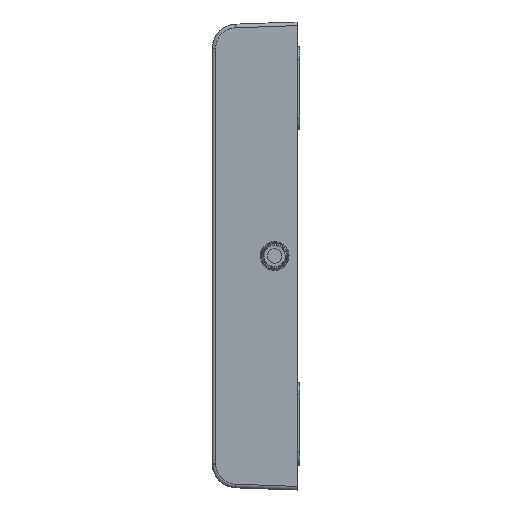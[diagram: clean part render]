
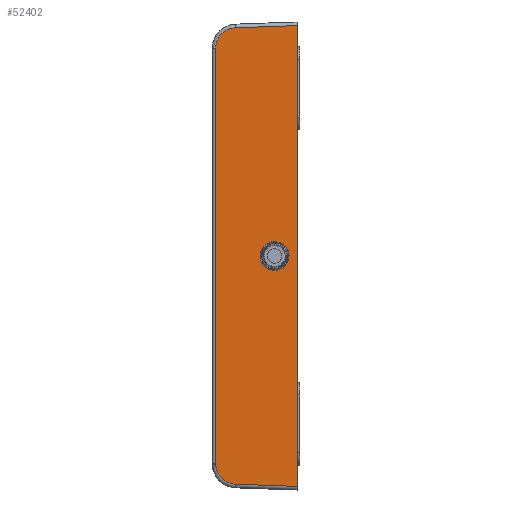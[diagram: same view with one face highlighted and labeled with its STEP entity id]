
A CAD part, left-side view. The second image highlights one B-rep face of the part: STEP entity #52402.
In plain terms, the highlighted planar face has unit normal (-0.999, 0.035, 0).
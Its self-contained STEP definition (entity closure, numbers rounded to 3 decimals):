
#740 = CARTESIAN_POINT ( 'NONE',  ( -128.366, -10.945, -97.289 ) ) ;
#755 = PLANE ( 'NONE',  #55244 ) ;
#777 = DIRECTION ( 'NONE',  ( -0.999, 0.035, 0. ) ) ;
#779 = DIRECTION ( 'NONE',  ( -0.035, -0.999, 0. ) ) ;
#3758 = FACE_OUTER_BOUND ( 'NONE', #15094, .T. ) ;
#10275 = LINE ( 'NONE', #12285, #10278 ) ;
#10278 = VECTOR ( 'NONE', #12287, 1000. ) ;
#10392 = LINE ( 'NONE', #41068, #10404 ) ;
#10393 = LINE ( 'NONE', #41074, #10406 ) ;
#10404 = VECTOR ( 'NONE', #41069, 1000. ) ;
#10405 = VECTOR ( 'NONE', #41111, 1000. ) ;
#10406 = VECTOR ( 'NONE', #41075, 1000. ) ;
#10408 = LINE ( 'NONE', #41110, #10405 ) ;
#12285 = CARTESIAN_POINT ( 'NONE',  ( -128.366, -10.945, -97.289 ) ) ;
#12287 = DIRECTION ( 'NONE',  ( 0., 0., 1. ) ) ;
#12461 = CARTESIAN_POINT ( 'NONE',  ( -127.179, 23.06, -86.394 ) ) ;
#12477 = CARTESIAN_POINT ( 'NONE',  ( -127.179, 23.06, -86.493 ) ) ;
#12479 = CARTESIAN_POINT ( 'NONE',  ( -127.179, 23.058, -86.592 ) ) ;
#12481 = CARTESIAN_POINT ( 'NONE',  ( -127.179, 23.055, -86.691 ) ) ;
#15094 = EDGE_LOOP ( 'NONE', ( #55713, #55714, #55715, #55716, #55717, #55718, #55719 ) ) ;
#20377 = CARTESIAN_POINT ( 'NONE',  ( -128.366, -10.945, -95.79 ) ) ;
#20416 = CARTESIAN_POINT ( 'NONE',  ( -127.179, 23.055, -86.691 ) ) ;
#20432 = CARTESIAN_POINT ( 'NONE',  ( -128.366, -10.945, 95.79 ) ) ;
#20452 = CARTESIAN_POINT ( 'NONE',  ( -127.179, 23.06, -86.394 ) ) ;
#20480 = CARTESIAN_POINT ( 'NONE',  ( -127.179, 23.06, 86.394 ) ) ;
#20497 = CARTESIAN_POINT ( 'NONE',  ( -127.465, 14.86, 94.889 ) ) ;
#20511 = CARTESIAN_POINT ( 'NONE',  ( -127.465, 14.86, -94.889 ) ) ;
#20711 = VERTEX_POINT ( 'NONE', #20377 ) ;
#20734 = VERTEX_POINT ( 'NONE', #20416 ) ;
#20743 = VERTEX_POINT ( 'NONE', #20432 ) ;
#20755 = VERTEX_POINT ( 'NONE', #20452 ) ;
#20771 = VERTEX_POINT ( 'NONE', #20480 ) ;
#20781 = VERTEX_POINT ( 'NONE', #20497 ) ;
#20791 = VERTEX_POINT ( 'NONE', #20511 ) ;
#41064 = CARTESIAN_POINT ( 'NONE',  ( -127.465, 14.86, 94.889 ) ) ;
#41068 = CARTESIAN_POINT ( 'NONE',  ( -128.131, -4.219, 95.555 ) ) ;
#41069 = DIRECTION ( 'NONE',  ( 0.035, 0.999, -0.035 ) ) ;
#41070 = CARTESIAN_POINT ( 'NONE',  ( -127.179, 23.055, -86.691 ) ) ;
#41071 = CARTESIAN_POINT ( 'NONE',  ( -127.296, 19.698, 94.72 ) ) ;
#41072 = CARTESIAN_POINT ( 'NONE',  ( -127.179, 23.06, 91.237 ) ) ;
#41073 = CARTESIAN_POINT ( 'NONE',  ( -127.179, 23.06, 86.394 ) ) ;
#41074 = CARTESIAN_POINT ( 'NONE',  ( -127.179, 23.06, -97.289 ) ) ;
#41075 = DIRECTION ( 'NONE',  ( 0., 0., -1. ) ) ;
#41077 = CARTESIAN_POINT ( 'NONE',  ( -127.185, 22.891, -91.396 ) ) ;
#41078 = CARTESIAN_POINT ( 'NONE',  ( -127.301, 19.563, -94.725 ) ) ;
#41079 = CARTESIAN_POINT ( 'NONE',  ( -127.465, 14.86, -94.889 ) ) ;
#41110 = CARTESIAN_POINT ( 'NONE',  ( -128.368, -10.997, -95.792 ) ) ;
#41111 = DIRECTION ( 'NONE',  ( -0.035, -0.999, -0.035 ) ) ;
#52402 = ADVANCED_FACE ( 'NONE', ( #3758 ), #755, .T. ) ;
#55095 =( BOUNDED_CURVE ( )  B_SPLINE_CURVE ( 3, ( #12461, #12477, #12479, #12481 ),
 .UNSPECIFIED., .F., .T. ) 
 B_SPLINE_CURVE_WITH_KNOTS ( ( 4, 4 ),
 ( 6.248, 6.283 ),
 .UNSPECIFIED. ) 
 CURVE ( )  GEOMETRIC_REPRESENTATION_ITEM ( )  RATIONAL_B_SPLINE_CURVE ( ( 1., 1., 1., 1. ) ) 
 REPRESENTATION_ITEM ( '' )  );
#55107 =( BOUNDED_CURVE ( )  B_SPLINE_CURVE ( 3, ( #41064, #41071, #41072, #41073 ),
 .UNSPECIFIED., .F., .T. ) 
 B_SPLINE_CURVE_WITH_KNOTS ( ( 4, 4 ),
 ( 1.641, 3.176 ),
 .UNSPECIFIED. ) 
 CURVE ( )  GEOMETRIC_REPRESENTATION_ITEM ( )  RATIONAL_B_SPLINE_CURVE ( ( 1., 0.813, 0.813, 1. ) ) 
 REPRESENTATION_ITEM ( '' )  );
#55108 =( BOUNDED_CURVE ( )  B_SPLINE_CURVE ( 3, ( #41070, #41077, #41078, #41079 ),
 .UNSPECIFIED., .F., .T. ) 
 B_SPLINE_CURVE_WITH_KNOTS ( ( 4, 4 ),
 ( 0., 1.501 ),
 .UNSPECIFIED. ) 
 CURVE ( )  GEOMETRIC_REPRESENTATION_ITEM ( )  RATIONAL_B_SPLINE_CURVE ( ( 1., 0.821, 0.821, 1. ) ) 
 REPRESENTATION_ITEM ( '' )  );
#55244 = AXIS2_PLACEMENT_3D ( 'NONE', #740, #777, #779 ) ;
#55713 = ORIENTED_EDGE ( 'NONE', *, *, #65505, .T. ) ;
#55714 = ORIENTED_EDGE ( 'NONE', *, *, #65613, .T. ) ;
#55715 = ORIENTED_EDGE ( 'NONE', *, *, #65614, .T. ) ;
#55716 = ORIENTED_EDGE ( 'NONE', *, *, #65615, .T. ) ;
#55717 = ORIENTED_EDGE ( 'NONE', *, *, #65511, .T. ) ;
#55718 = ORIENTED_EDGE ( 'NONE', *, *, #65616, .T. ) ;
#55719 = ORIENTED_EDGE ( 'NONE', *, *, #65618, .T. ) ;
#65505 = EDGE_CURVE ( 'NONE', #20711, #20743, #10275, .T. ) ;
#65511 = EDGE_CURVE ( 'NONE', #20755, #20734, #55095, .T. ) ;
#65613 = EDGE_CURVE ( 'NONE', #20743, #20781, #10392, .T. ) ;
#65614 = EDGE_CURVE ( 'NONE', #20781, #20771, #55107, .T. ) ;
#65615 = EDGE_CURVE ( 'NONE', #20771, #20755, #10393, .T. ) ;
#65616 = EDGE_CURVE ( 'NONE', #20734, #20791, #55108, .T. ) ;
#65618 = EDGE_CURVE ( 'NONE', #20791, #20711, #10408, .T. ) ;
